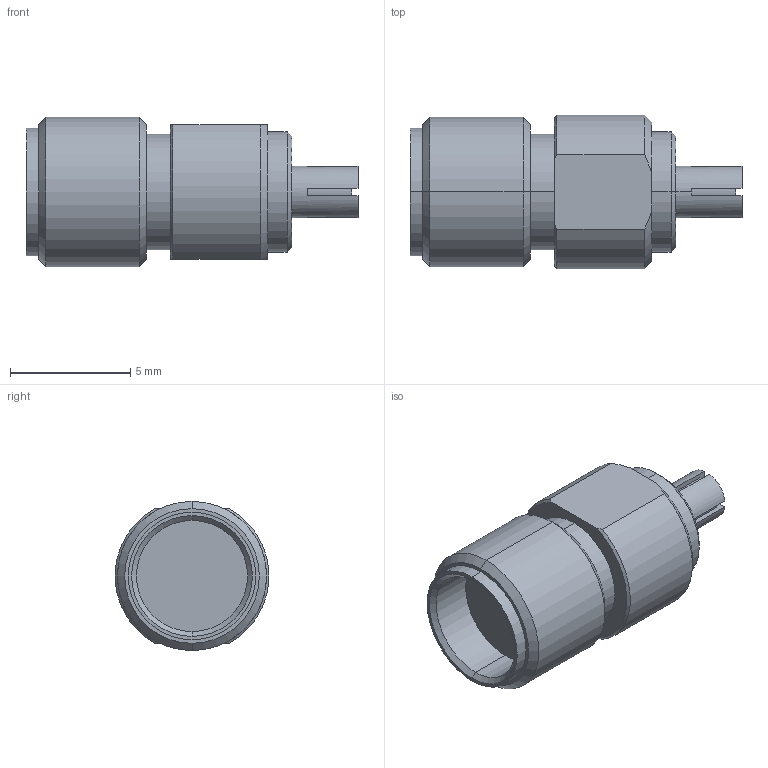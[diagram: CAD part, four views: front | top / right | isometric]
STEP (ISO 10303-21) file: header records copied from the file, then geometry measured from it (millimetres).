
FILE_DESCRIPTION (( 'STEP AP203' ), '1' );
FILE_NAME ('90285-002 MHF III SMA ADAPTOR.STEP', '2020-03-24T08:12:22', ( '' ), ( '' ), 'SwSTEP 2.0', 'SolidWorks 2017', '' );
FILE_SCHEMA (( 'CONFIG_CONTROL_DESIGN' ));
Length unit declared in the file: millimetre
Products named in the file (1): 90285-002 MHF III SMA ADAPTOR
Bounding box: 13.8 x 6.38 x 6.2 mm (x, y, z)
Volume: 281.6 mm3; surface area: 328.8 mm2
Topology: 1 solids, 1 shells, 65 faces, 163 edges, 106 vertices
Faces by surface type: plane 26, cylinder 23, cone 16
Entity records: 2080 total; most frequent: CARTESIAN_POINT 407, DIRECTION 349, ORIENTED_EDGE 326, EDGE_CURVE 163, AXIS2_PLACEMENT_3D 136, VERTEX_POINT 106, LINE 77, VECTOR 77
